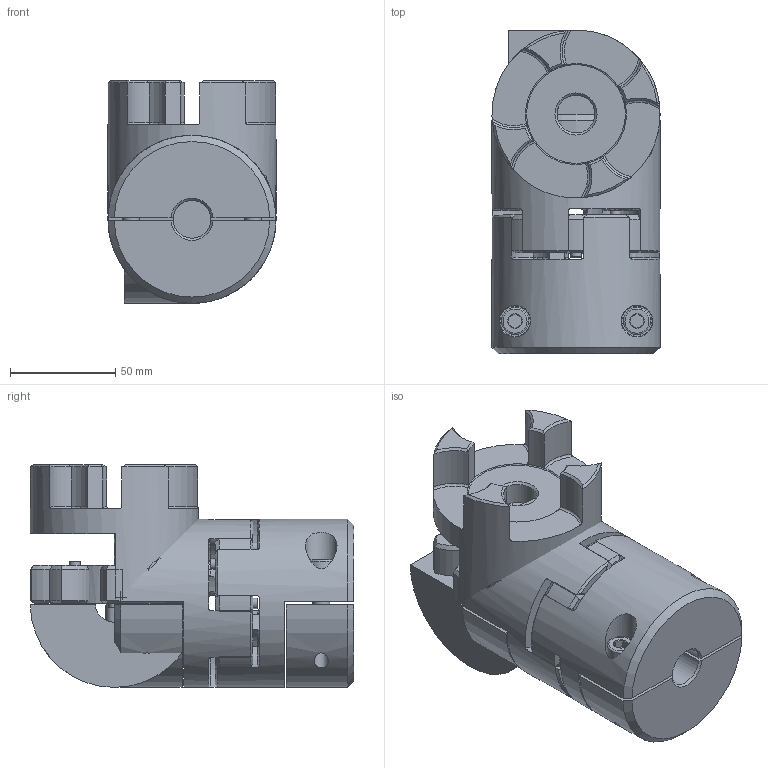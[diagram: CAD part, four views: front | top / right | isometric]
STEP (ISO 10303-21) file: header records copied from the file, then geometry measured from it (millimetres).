
FILE_DESCRIPTION( ( 'Unknown' ), '1' );
FILE_NAME( 'C:/Dokumente und Einstellungen/Sven/Desktop/homepage/cad - homepage/KBE2H/KBE 2H - 38.stp', 'Unknown', ( 'Unknown' ), ( 'Unknown' ), 'XStep 1.0', 'Unknown', ' ' );
FILE_SCHEMA( ( 'automotive_design' ) );
Length unit declared in the file: millimetre
Products named in the file (7): Assem1; KBE 2H - 38_Nabe; KBE 2H - 38_Nabe-oa0; Zahnkranz_38_Standard; ISO EN DIN 4762 M8x30; KBE 2H - 38_Klemme; KBE 2H - 38_Klemme-oa1
Bounding box: 79.99 x 153.99 x 106 mm (x, y, z)
Volume: 966110.7 mm3; surface area: 193186.5 mm2
Topology: 15 solids, 15 shells, 629 faces, 1429 edges, 874 vertices
Faces by surface type: cone 219, cylinder 192, plane 160, torus 58
Full cylindrical faces by diameter (mm): 5 x16, 6.647 x8, 7 x5, 8 x10, 9 x8, 13 x5, 15 x8, 18 x4, 38 x4, 80 x4
Entity records: 8842 total; most frequent: CARTESIAN_POINT 2579, DIRECTION 1328, ORIENTED_EDGE 1178, AXIS2_PLACEMENT_3D 610, EDGE_CURVE 589, VERTEX_POINT 385, EDGE_LOOP 358, CIRCLE 323
